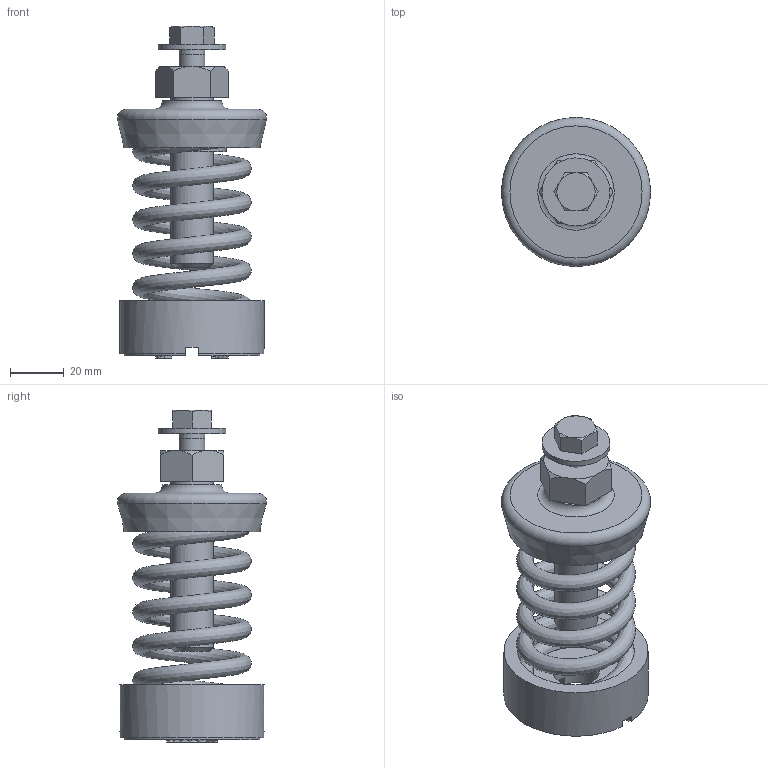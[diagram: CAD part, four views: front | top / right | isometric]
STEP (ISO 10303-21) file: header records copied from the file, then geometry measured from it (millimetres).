
FILE_DESCRIPTION(/* description */ (''),/* implementation_level */ '2;1');
FILE_NAME(/* name */ '\\Mleuckthor2\cad-proe_solids\WEBSITE FILES 05.22.13\STEP\SLFA\SLF-A-400.stp',/* time_stamp */ '2016-02-29T08:36:50-05:00',/* author */ ('rramoutar'),/* organization */ ('Mason Industries Inc.'),/* preprocessor_version */ 'ST-DEVELOPER v15.6',/* originating_system */ 'Autodesk Inventor 2015',/* authorisation */ '');
FILE_SCHEMA (('CONFIG_CONTROL_DESIGN'));
Length unit declared in the file: inch
Products named in the file (1): SLF-A-400
Bounding box: 55.7 x 55.7 x 124.01 mm (x, y, z)
Volume: 93904.8 mm3; surface area: 48273.1 mm2
Topology: 7 solids, 8 shells, 335 faces, 851 edges, 562 vertices
Faces by surface type: plane 225, bspline 63, cylinder 25, cone 18, torus 4
Full cylindrical faces by diameter (mm): 7.798 x1, 9.525 x1, 11.125 x1, 13.386 x1, 14.275 x1, 15.875 x1, 17.462 x1, 24.606 x2, 25.4 x1, 43.656 x1, 44.45 x2, 46.037 x1, 53.975 x1
Entity records: 12125 total; most frequent: CARTESIAN_POINT 4185, ORIENTED_EDGE 1640, DIRECTION 1299, EDGE_CURVE 820, LINE 579, VECTOR 579, VERTEX_POINT 556, EDGE_LOOP 400
